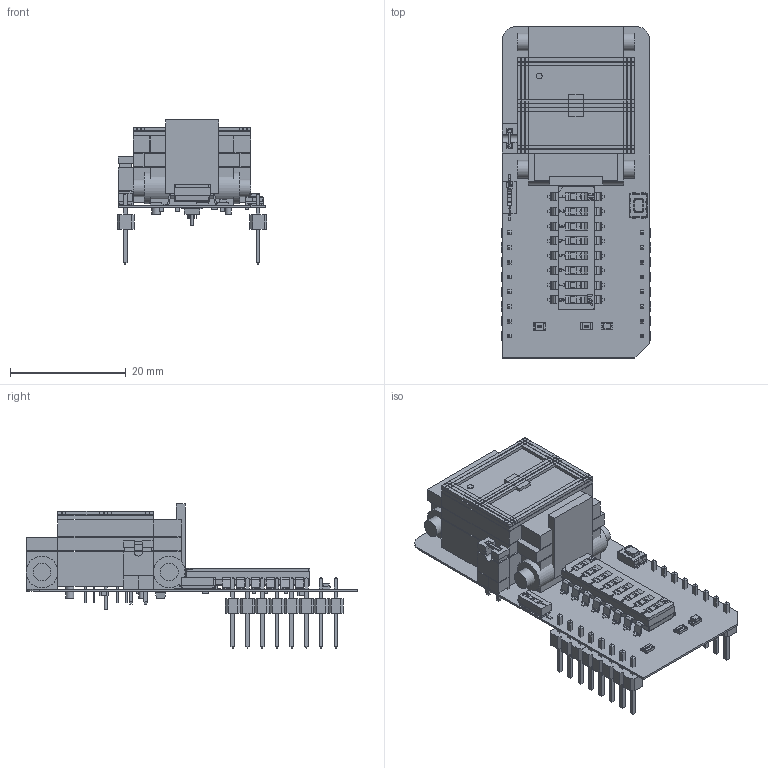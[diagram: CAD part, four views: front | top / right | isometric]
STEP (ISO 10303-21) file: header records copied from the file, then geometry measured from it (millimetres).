
FILE_DESCRIPTION(('Open CASCADE Model'),'2;1');
FILE_NAME('Open CASCADE Shape Model','2021-09-20T11:30:43',('Author'),( 'Open CASCADE'),'Open CASCADE STEP processor 6.8','Open CASCADE 6.8' ,'Unknown');
FILE_SCHEMA(('AUTOMOTIVE_DESIGN { 1 0 10303 214 1 1 1 1 }'));
Length unit declared in the file: millimetre
Products named in the file (86): PCB; Board; C4; User_Library-SMD_CAPACITOR0603; R6; User_Library-R_0402; MBD1; 2110823760; User_Library-PinHeaderX5-1_PinHeaderX5_Pins_1; User_Library-PinHeaderX5-1_PinHeaderX5_Body_1; 2110825040; SW1; 418121160808A; base; cap; insulator; clip; R4; D1; SOD123F; C3; C2; LD1; led_0805_green; JP1; User_Library-R_0805; R1; R5; T1; User_Library-Switch-CK-KMR2; User_Library-Switch-CK-KMR2_Button; User_Library-Switch-CK-KMR2_Boitier; User_Library-Switch-CK-KMR2_Tole; User_Library-Switch-CK-KMR2_Pads; JP2; HEADER_1X2; User_Library-Header1x2_Header1_1; SHORTING_JUMPER; R2; R3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
Assembly tree (121 placements, depth 4):
  PCB
    Board
    C4
      User_Library-SMD_CAPACITOR0603
    R6
      User_Library-R_0402
    MBD1
      2110823760  x2
        User_Library-PinHeaderX5-1_PinHeaderX5_Pins_1
        User_Library-PinHeaderX5-1_PinHeaderX5_Body_1
      2110825040  x2
        User_Library-PinHeaderX5-1_PinHeaderX5_Pins_1
        User_Library-PinHeaderX5-1_PinHeaderX5_Body_1
    SW1
      418121160808A
        base
        cap
        insulator
        clip  x8
    R4
      User_Library-R_0402
    D1
      SOD123F
    C3
      User_Library-SMD_CAPACITOR0603
    C2
      User_Library-SMD_CAPACITOR0603
    LD1
      led_0805_green
    JP1
      User_Library-R_0805
    R1
      User_Library-R_0805
    R5
      User_Library-R_0402
    T1
      User_Library-Switch-CK-KMR2
        User_Library-Switch-CK-KMR2_Button
        User_Library-Switch-CK-KMR2_Boitier
        User_Library-Switch-CK-KMR2_Tole
        User_Library-Switch-CK-KMR2_Pads
    JP2
      HEADER_1X2
        User_Library-Header1x2_Header1_1  x2
      SHORTING_JUMPER
    R2
      User_Library-R_0402
    R3
      User_Library-R_0402
    DS1
      1300155776
        Cylinder
      2111268792
        Extruded
      2111268928  x7
        Extruded
      2111269064  x6
        Extruded
      2111269200
        Extruded
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Bounding box: 25.79 x 57.24 x 24.84 mm (x, y, z)
Volume: 8291.9 mm3; surface area: 13174.7 mm2
Topology: 104 solids, 105 shells, 2678 faces, 6726 edges, 4324 vertices
Faces by surface type: plane 2150, bspline 236, cylinder 225, sphere 36, extrusion 25, cone 6
Full cylindrical faces by diameter (mm): 0.51 x1, 1 x2, 1.4 x1, 3.062 x2, 5.461 x2
Entity records: 68219 total; most frequent: CARTESIAN_POINT 15993, ORIENTED_EDGE 8508, DIRECTION 7655, EDGE_CURVE 4256, VECTOR 3559, LINE 3534, VERTEX_POINT 2748, AXIS2_PLACEMENT_3D 2048
